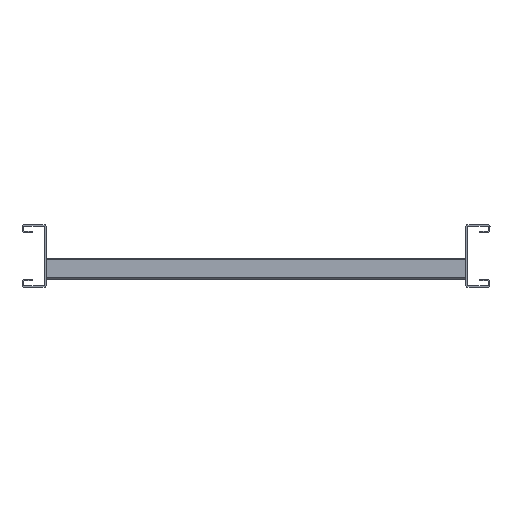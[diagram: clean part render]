
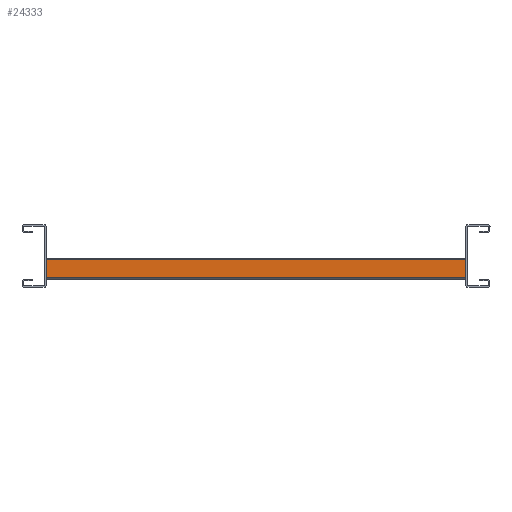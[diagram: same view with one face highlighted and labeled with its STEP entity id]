
A CAD part, left-side view. The second image highlights one B-rep face of the part: STEP entity #24333.
In plain terms, the highlighted planar face has unit normal (-1, 0, 0) as drawn and (0, 1, 0) by its records, which use the part's own axes.
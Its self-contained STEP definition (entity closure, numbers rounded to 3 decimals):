
#1759=FACE_OUTER_BOUND('',#3397,.T.);
#3397=EDGE_LOOP('',(#21910,#21911,#21912,#21913));
#6627=LINE('',#37484,#9827);
#6633=LINE('',#37501,#9833);
#6734=LINE('',#37866,#9934);
#6735=LINE('',#37868,#9935);
#9827=VECTOR('',#30826,304.8);
#9833=VECTOR('',#30838,304.8);
#9934=VECTOR('',#31127,304.8);
#9935=VECTOR('',#31130,304.8);
#12062=VERTEX_POINT('',#37481);
#12063=VERTEX_POINT('',#37483);
#12070=VERTEX_POINT('',#37498);
#12071=VERTEX_POINT('',#37500);
#15302=EDGE_CURVE('',#12062,#12063,#6627,.T.);
#15310=EDGE_CURVE('',#12070,#12071,#6633,.T.);
#15494=EDGE_CURVE('',#12071,#12062,#6734,.T.);
#15495=EDGE_CURVE('',#12070,#12063,#6735,.T.);
#21910=ORIENTED_EDGE('',*,*,#15302,.F.);
#21911=ORIENTED_EDGE('',*,*,#15494,.F.);
#21912=ORIENTED_EDGE('',*,*,#15310,.F.);
#21913=ORIENTED_EDGE('',*,*,#15495,.T.);
#23256=PLANE('',#25594);
#24333=ADVANCED_FACE('',(#1759),#23256,.T.);
#25594=AXIS2_PLACEMENT_3D('',#37867,#31128,#31129);
#30826=DIRECTION('',(0.,0.,-1.));
#30838=DIRECTION('',(0.,0.,1.));
#31127=DIRECTION('',(-1.,0.,0.));
#31128=DIRECTION('center_axis',(0.,1.,0.));
#31129=DIRECTION('ref_axis',(1.,0.,0.));
#31130=DIRECTION('',(-1.,0.,0.));
#37481=CARTESIAN_POINT('',(0.,20.,8.5));
#37483=CARTESIAN_POINT('',(0.,20.,-8.5));
#37484=CARTESIAN_POINT('',(0.,20.,8.5));
#37498=CARTESIAN_POINT('',(400.,20.,-8.5));
#37500=CARTESIAN_POINT('',(400.,20.,8.5));
#37501=CARTESIAN_POINT('',(400.,20.,-8.5));
#37866=CARTESIAN_POINT('',(0.,20.,8.5));
#37867=CARTESIAN_POINT('Origin',(0.,20.,8.5));
#37868=CARTESIAN_POINT('',(0.,20.,-8.5));
